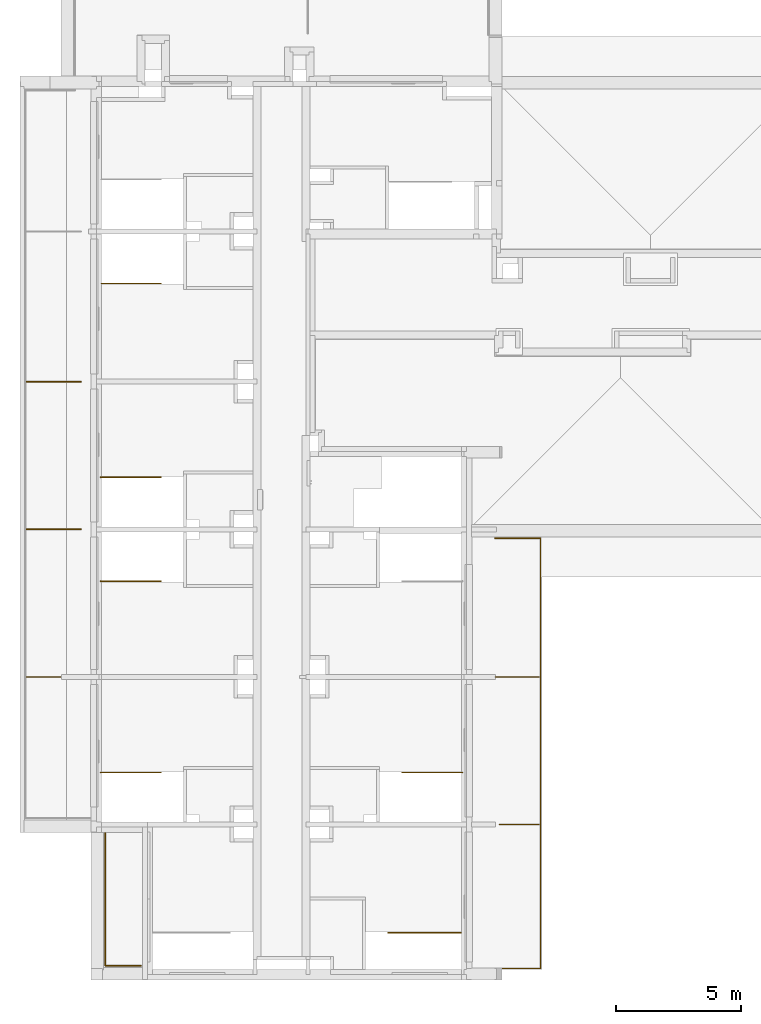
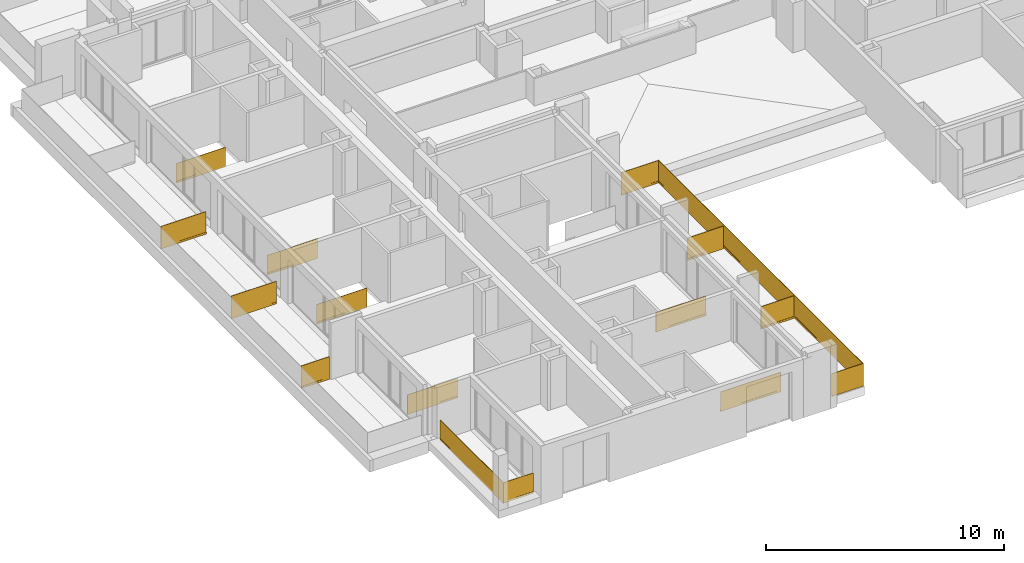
# One storey, part 8 of 30: 13 railings.
"""IFC2X3 building model written with IfcOpenShell, lengths in millimetres."""

from ifc_helpers import new_model, entity, si_unit, converted_unit, derived_unit, money_unit, direction, frame, origin_with_axes, place, context, subcontext, project, spatial, faceted_brep, material, material_list, type_object, element, save


model = new_model("IFC2X3")

# Units and contexts
model_context = context("Model", 3, precision=0.01, world=origin_with_axes(), true_north=direction((0.34421633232, 0.938890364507)))
body_context = subcontext(model_context, "Body", "Model", "MODEL_VIEW")
ifc_project = project(units=[si_unit("LENGTHUNIT", "METRE", prefix="MILLI"), si_unit("AREAUNIT", "SQUARE_METRE"), si_unit("VOLUMEUNIT", "CUBIC_METRE"), converted_unit("PLANEANGLEUNIT", "DEGREE", entity("IfcPlaneAngleMeasure", 0.0174532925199), si_unit("PLANEANGLEUNIT", "RADIAN"), dimensions=[0, 0, 0, 0, 0, 0, 0]), si_unit("SOLIDANGLEUNIT", "STERADIAN"), money_unit("USD"), converted_unit("TIMEUNIT", "Year", entity("IfcTimeMeasure", 31556926.0), si_unit("TIMEUNIT", "SECOND"), dimensions=[0, 0, 1, 0, 0, 0, 0]), si_unit("MASSUNIT", "GRAM", prefix="KILO"), si_unit("THERMODYNAMICTEMPERATUREUNIT", "DEGREE_CELSIUS"), si_unit("LUMINOUSINTENSITYUNIT", "LUMEN"), si_unit("ENERGYUNIT", "JOULE", prefix="MEGA"), derived_unit("THERMALCONDUCTANCEUNIT", [(si_unit("POWERUNIT", "WATT"), 1), (si_unit("LENGTHUNIT", "METRE"), -1), (si_unit("THERMODYNAMICTEMPERATUREUNIT", "KELVIN"), -1)]), derived_unit("SPECIFICHEATCAPACITYUNIT", [(si_unit("ENERGYUNIT", "JOULE"), 1), (si_unit("MASSUNIT", "GRAM", prefix="KILO"), -1), (si_unit("THERMODYNAMICTEMPERATUREUNIT", "KELVIN"), -1)]), derived_unit("MASSDENSITYUNIT", [(si_unit("MASSUNIT", "GRAM", prefix="KILO"), 1), (si_unit("VOLUMEUNIT", "CUBIC_METRE"), -1)])], contexts=[model_context])

# Site, building, storey
site_placement = place(None, origin_with_axes())
site = spatial("IfcSite", under=ifc_project, at=site_placement, Name="USTRONIE MORSKIE", CompositionType="ELEMENT")
building_placement = place(site_placement, origin_with_axes())
building = spatial("IfcBuilding", under=site, at=building_placement, Name="Budynek", CompositionType="ELEMENT")
storey_placement = place(building_placement, frame((0.0, 0.0, 16000.0), z_axis=(0.0, 0.0, 1.0), x_axis=(1.0, 0.0, 0.0)))
storey = spatial("IfcBuildingStorey", under=building, at=storey_placement, Name="ANTRESOLA - KOND. TECHNICZNA", CompositionType="ELEMENT", Elevation=16000.0)

# Railings
ifc_material_1 = material(Name="Szkło struktualne")
ifc_material_2 = material(Name="Profile aluminiowe")
ifc_material_list_1 = material_list([ifc_material_1, ifc_material_2])
railing_type = type_object("IfcRailingType", Name="Typ balustrady", PredefinedType="NOTDEFINED")
railing_1_placement = place(storey_placement, frame((367117.957311, 715101.199036, 200.0), z_axis=(0.0, 0.0, 1.0), x_axis=(-1.0, 0.0, 0.0)))
element("IfcRailing", 1, at=railing_1_placement, inside=storey, type_object=railing_type, material=ifc_material_list_1, Name="BL1", PredefinedType="NOTDEFINED", context=body_context, shape_type="Brep", body=[
    faceted_brep([(-1750.0, -9.99999999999, -100.0), (-150.0, -9.99999999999, -100.0), (-150.0, -9.99999999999, 1050.0), (-1750.0, -9.99999999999, 1050.0), (-150.0, 9.99999999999, -100.0), (-1750.0, 9.99999999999, -100.0), (-150.0, 9.99999999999, 1050.0), (-1750.0, 9.99999999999, 1050.0)], [[[0, 1, 2, 3]], [[4, 1, 0, 5]], [[6, 2, 1, 4]], [[3, 2, 6, 7]], [[0, 3, 7, 5]], [[6, 4, 5, 7]]]),
    faceted_brep([(-1750.0, 15.0, -5.0), (-150.0, 15.0, -5.0), (-150.0, 15.0, -105.0), (-1750.0, 15.0, -105.0), (-1750.0, 9.99999999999, -5.0), (-150.0, 9.99999999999, -5.0), (-150.0, 9.99999999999, -100.0), (-150.0, -9.99999999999, -100.0), (-150.0, -9.99999999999, -5.0), (-150.0, -15.0, -5.0), (-150.0, -15.0, -105.0), (-1750.0, -15.0, -105.0), (-1750.0, -15.0, -5.0), (-1750.0, -9.99999999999, -5.0), (-1750.0, -9.99999999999, -100.0), (-1750.0, 9.99999999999, -100.0)], [[[0, 1, 2, 3]], [[1, 0, 4, 5]], [[6, 7, 8, 9, 10, 2, 1, 5]], [[10, 11, 3, 2]], [[11, 12, 13, 14, 15, 4, 0, 3]], [[15, 6, 5, 4]], [[7, 6, 15, 14]], [[8, 7, 14, 13]], [[9, 8, 13, 12]], [[11, 10, 9, 12]]]),
])
railing_2_placement = place(storey_placement, frame((350567.920919, 732801.199036, 200.0), z_axis=(0.0, 0.0, 1.0), x_axis=(1.0, 0.0, 0.0)))
element("IfcRailing", 2, at=railing_2_placement, inside=storey, type_object=railing_type, material=ifc_material_list_1, Name="BL1", PredefinedType="NOTDEFINED", context=body_context, shape_type="Brep", body=[
    faceted_brep([(-2200.0, -9.99999999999, -100.0), (0.0, -9.99999999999, -100.0), (0.0, -9.99999999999, 1050.0), (-2200.0, -9.99999999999, 1050.0), (0.0, 9.99999999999, -100.0), (-2200.0, 9.99999999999, -100.0), (0.0, 9.99999999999, 1050.0), (-2200.0, 9.99999999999, 1050.0)], [[[0, 1, 2, 3]], [[4, 1, 0, 5]], [[6, 2, 1, 4]], [[3, 2, 6, 7]], [[0, 3, 7, 5]], [[6, 4, 5, 7]]]),
    faceted_brep([(-2200.0, 15.0, -5.0), (0.0, 15.0, -5.0), (0.0, 15.0, -105.0), (-2200.0, 15.0, -105.0), (-2200.0, 9.99999999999, -5.0), (0.0, 9.99999999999, -5.0), (0.0, 9.99999999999, -100.0), (0.0, -9.99999999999, -100.0), (0.0, -9.99999999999, -5.0), (0.0, -15.0, -5.0), (0.0, -15.0, -105.0), (-2200.0, -15.0, -105.0), (-2200.0, -15.0, -5.0), (-2200.0, -9.99999999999, -5.0), (-2200.0, -9.99999999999, -100.0), (-2200.0, 9.99999999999, -100.0)], [[[0, 1, 2, 3]], [[1, 0, 4, 5]], [[6, 7, 8, 9, 10, 2, 1, 5]], [[10, 11, 3, 2]], [[11, 12, 13, 14, 15, 4, 0, 3]], [[15, 6, 5, 4]], [[7, 6, 15, 14]], [[8, 7, 14, 13]], [[9, 8, 13, 12]], [[11, 10, 9, 12]]]),
])
for number, where, z_axis, x_axis, name in (
    (3, (351317.920919, 729001.154796, 100.0), (0.0, 0.0, 1.0), (-1.0, 0.0, 0.0), "BL1"),
    (4, (351317.920919, 717201.199037, 100.0), (0.0, 0.0, 1.0), (-1.0, 0.0, 0.0), "BL1"),
):
    element("IfcRailing", number, at=place(storey_placement, frame(where, z_axis=z_axis, x_axis=x_axis)), inside=storey, type_object=railing_type, material=ifc_material_list_1, Name=name, PredefinedType="NOTDEFINED", context=body_context, shape_type="Brep", body=[
        faceted_brep([(-2440.0, 9.99999999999, -50.0), (0.0, 9.99999999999, -50.0), (0.0, 9.99999999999, 950.0), (-2440.0, 9.99999999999, 950.0), (0.0, 30.0, -50.0), (-2440.0, 30.0, -50.0), (0.0, 30.0, 950.0), (-2440.0, 30.0, 950.0)], [[[0, 1, 2, 3]], [[4, 1, 0, 5]], [[6, 2, 1, 4]], [[3, 2, 6, 7]], [[0, 3, 7, 5]], [[6, 4, 5, 7]]]),
        faceted_brep([(-2440.0, 35.0, 45.0), (0.0, 35.0, 45.0), (0.0, 35.0, -55.0), (-2440.0, 35.0, -55.0), (-2440.0, 30.0, 45.0), (0.0, 30.0, 45.0), (0.0, 30.0, -50.0), (0.0, 9.99999999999, -50.0), (0.0, 9.99999999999, 45.0), (0.0, 5.0, 45.0), (0.0, 5.0, -55.0), (-2440.0, 5.0, -55.0), (-2440.0, 5.0, 45.0), (-2440.0, 9.99999999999, 45.0), (-2440.0, 9.99999999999, -50.0), (-2440.0, 30.0, -50.0)], [[[0, 1, 2, 3]], [[1, 0, 4, 5]], [[6, 7, 8, 9, 10, 2, 1, 5]], [[10, 11, 3, 2]], [[11, 12, 13, 14, 15, 4, 0, 3]], [[15, 6, 5, 4]], [[7, 6, 15, 14]], [[8, 7, 14, 13]], [[9, 8, 13, 12]], [[11, 10, 9, 12]]]),
    ])
railing_3_placement = place(storey_placement, frame((367117.957311, 721001.199036, 200.0), z_axis=(0.0, 0.0, 1.0), x_axis=(-1.0, 0.0, 0.0)))
element("IfcRailing", 5, at=railing_3_placement, inside=storey, type_object=railing_type, material=ifc_material_list_1, Name="BL1", PredefinedType="NOTDEFINED", context=body_context, shape_type="Brep", body=[
    faceted_brep([(-1750.0, -9.99999999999, -100.0), (0.0, -9.99999999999, -100.0), (0.0, -9.99999999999, 1050.0), (-1750.0, -9.99999999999, 1050.0), (0.0, 9.99999999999, -100.0), (-1750.0, 9.99999999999, -100.0), (0.0, 9.99999999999, 1050.0), (-1750.0, 9.99999999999, 1050.0)], [[[0, 1, 2, 3]], [[4, 1, 0, 5]], [[6, 2, 1, 4]], [[3, 2, 6, 7]], [[0, 3, 7, 5]], [[6, 4, 5, 7]]]),
    faceted_brep([(-1750.0, 15.0, -5.0), (0.0, 15.0, -5.0), (0.0, 15.0, -105.0), (-1750.0, 15.0, -105.0), (-1750.0, 9.99999999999, -5.0), (0.0, 9.99999999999, -5.0), (0.0, 9.99999999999, -100.0), (0.0, -9.99999999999, -100.0), (0.0, -9.99999999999, -5.0), (0.0, -15.0, -5.0), (0.0, -15.0, -105.0), (-1750.0, -15.0, -105.0), (-1750.0, -15.0, -5.0), (-1750.0, -9.99999999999, -5.0), (-1750.0, -9.99999999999, -100.0), (-1750.0, 9.99999999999, -100.0)], [[[0, 1, 2, 3]], [[1, 0, 4, 5]], [[6, 7, 8, 9, 10, 2, 1, 5]], [[10, 11, 3, 2]], [[11, 12, 13, 14, 15, 4, 0, 3]], [[15, 6, 5, 4]], [[7, 6, 15, 14]], [[8, 7, 14, 13]], [[9, 8, 13, 12]], [[11, 10, 9, 12]]]),
])
ifc_material_list_2 = material_list([ifc_material_1, ifc_material_2, ifc_material_1, ifc_material_2, ifc_material_1, ifc_material_2])
railing_4_placement = place(storey_placement, frame((360367.920919, 709026.409919, 200.0), z_axis=(0.0, 0.0, 1.0), x_axis=(1.0, 0.0, 0.0)))
element("IfcRailing", 6, at=railing_4_placement, inside=storey, type_object=railing_type, material=ifc_material_list_2, Name="BL1", PredefinedType="NOTDEFINED", context=body_context, shape_type="Brep", body=[
    faceted_brep([(7020.03639142, 334.795315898, -100.00000039), (7020.03639142, 334.795315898, 1049.99999998), (8540.02085166, 334.795315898, 1049.99999998), (8540.02085166, 334.795315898, -100.00000039), (7020.03639142, 314.795316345, 1049.99999998), (7020.03639142, 314.795316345, -100.00000039), (8560.02087209, 314.795316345, 1049.99999998), (8560.02087209, 314.795316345, -100.00000039)], [[[0, 1, 2, 3]], [[4, 1, 0, 5]], [[2, 1, 4, 6]], [[3, 2, 6, 7]], [[5, 0, 3, 7]], [[6, 4, 5, 7]]]),
    faceted_brep([(8550.0208617, 309.795316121, -5.0), (7020.03639181, 309.795316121, -5.0), (7020.03639181, 309.795316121, -105.0), (8550.0208617, 309.795316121, -105.0), (8550.0208617, 314.795316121, -5.0), (7020.03639181, 314.795316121, -5.0), (7020.03639181, 314.795316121, -100.0), (7020.03639181, 334.795316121, -100.0), (7020.03639181, 334.795316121, -5.0), (7020.03639181, 339.795316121, -5.0), (7020.03639181, 339.795316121, -105.0), (8550.0208617, 339.795316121, -105.0), (8550.0208617, 339.795316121, -5.0), (8550.0208617, 334.795316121, -5.0), (8550.0208617, 334.795316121, -100.0), (8550.0208617, 314.795316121, -100.0)], [[[0, 1, 2, 3]], [[1, 0, 4, 5]], [[6, 7, 8, 9, 10, 2, 1, 5]], [[10, 11, 3, 2]], [[11, 12, 13, 14, 15, 4, 0, 3]], [[15, 6, 5, 4]], [[7, 6, 15, 14]], [[8, 7, 14, 13]], [[9, 8, 13, 12]], [[11, 10, 9, 12]]]),
    faceted_brep([(8540.02085148, 334.795315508, -100.00000039), (8540.02085148, 334.795315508, 1049.99999998), (8540.0029234, 17504.7891175, 1049.99999998), (8540.0029234, 17504.7891175, -100.00000039), (8560.02087192, 314.795315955, 1049.99999998), (8560.02087192, 314.795315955, -100.00000039), (8560.00290207, 17524.789117, 1049.99999998), (8560.00290207, 17524.789117, -100.00000039)], [[[0, 1, 2, 3]], [[4, 1, 0, 5]], [[2, 1, 4, 6]], [[3, 2, 6, 7]], [[5, 0, 3, 7]], [[6, 4, 5, 7]]]),
    faceted_brep([(8565.00291274, 17514.7891325, -5.0), (8565.0208617, 324.795331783, -5.0), (8565.0208617, 324.795331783, -105.0), (8565.00291274, 17514.7891325, -105.0), (8560.00291274, 17514.7891273, -5.0), (8560.0208617, 324.795326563, -5.0), (8560.0208617, 324.795326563, -100.0), (8540.0208617, 324.79530568, -100.0), (8540.0208617, 324.79530568, -5.0), (8535.0208617, 324.795300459, -5.0), (8535.0208617, 324.795300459, -105.0), (8535.00291274, 17514.7891012, -105.0), (8535.00291274, 17514.7891012, -5.0), (8540.00291274, 17514.7891064, -5.0), (8540.00291274, 17514.7891064, -100.0), (8560.00291274, 17514.7891273, -100.0)], [[[0, 1, 2, 3]], [[1, 0, 4, 5]], [[6, 7, 8, 9, 10, 2, 1, 5]], [[10, 11, 3, 2]], [[11, 12, 13, 14, 15, 4, 0, 3]], [[15, 6, 5, 4]], [[7, 6, 15, 14]], [[8, 7, 14, 13]], [[9, 8, 13, 12]], [[11, 10, 9, 12]]]),
    faceted_brep([(8540.00292379, 17504.7891171, -100.00000039), (8540.00292379, 17504.7891171, 1049.99999998), (6730.03639202, 17504.7891171, 1049.99999998), (6730.03639202, 17504.7891171, -100.00000039), (8560.00290246, 17524.7891166, 1049.99999998), (8560.00290246, 17524.7891166, -100.00000039), (6730.03639202, 17524.7891166, 1049.99999998), (6730.03639202, 17524.7891166, -100.00000039)], [[[0, 1, 2, 3]], [[4, 1, 0, 5]], [[2, 1, 4, 6]], [[3, 2, 6, 7]], [[5, 0, 3, 7]], [[6, 4, 5, 7]]]),
    faceted_brep([(6730.03639181, 17529.7891169, -5.0), (8550.00291274, 17529.7891169, -5.0), (8550.00291274, 17529.7891169, -105.0), (6730.03639181, 17529.7891169, -105.0), (6730.03639181, 17524.7891169, -5.0), (8550.00291274, 17524.7891169, -5.0), (8550.00291274, 17524.7891169, -100.0), (8550.00291274, 17504.7891169, -100.0), (8550.00291274, 17504.7891169, -5.0), (8550.00291274, 17499.7891169, -5.0), (8550.00291274, 17499.7891169, -105.0), (6730.03639181, 17499.7891169, -105.0), (6730.03639181, 17499.7891169, -5.0), (6730.03639181, 17504.7891169, -5.0), (6730.03639181, 17504.7891169, -100.0), (6730.03639181, 17524.7891169, -100.0)], [[[0, 1, 2, 3]], [[1, 0, 4, 5]], [[6, 7, 8, 9, 10, 2, 1, 5]], [[10, 11, 3, 2]], [[11, 12, 13, 14, 15, 4, 0, 3]], [[15, 6, 5, 4]], [[7, 6, 15, 14]], [[8, 7, 14, 13]], [[9, 8, 13, 12]], [[11, 10, 9, 12]]]),
])
ifc_material_list_3 = material_list([ifc_material_1, ifc_material_2, ifc_material_1, ifc_material_2])
railing_5_placement = place(storey_placement, frame((350967.920919, 714801.199036, 200.0), z_axis=(0.0, 0.0, 1.0), x_axis=(-1.0, 0.0, 0.0)))
element("IfcRailing", 7, at=railing_5_placement, inside=storey, type_object=railing_type, material=ifc_material_list_3, Name="BL1", PredefinedType="NOTDEFINED", context=body_context, shape_type="Brep", body=[
    faceted_brep([(-570.00003457, 29.9999999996, -100.00000039), (-570.00003457, 29.9999999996, 950.000000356), (-570.000000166, 5330.00000068, 950.000000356), (-570.000000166, 5330.00000068, -100.00000039), (-550.000035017, 29.9999998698, 950.000000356), (-550.000035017, 29.9999998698, -100.00000039), (-550.000000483, 5350.00000023, 950.000000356), (-550.000000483, 5350.00000023, -100.00000039)], [[[0, 1, 2, 3]], [[4, 1, 0, 5]], [[2, 1, 4, 6]], [[3, 2, 6, 7]], [[5, 0, 3, 7]], [[6, 4, 5, 7]]]),
    faceted_brep([(-545.000000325, 5339.9999999, -5.0), (-545.000034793, 30.0000002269, -5.0), (-545.000034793, 30.0000002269, -105.0), (-545.000000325, 5339.9999999, -105.0), (-550.000000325, 5339.99999993, -5.0), (-550.000034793, 30.0000002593, -5.0), (-550.000034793, 30.0000002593, -100.0), (-570.000034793, 30.0000003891, -100.0), (-570.000034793, 30.0000003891, -5.0), (-575.000034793, 30.0000004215, -5.0), (-575.000034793, 30.0000004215, -105.0), (-575.000000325, 5340.0000001, -105.0), (-575.000000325, 5340.0000001, -5.0), (-570.000000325, 5340.00000006, -5.0), (-570.000000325, 5340.00000006, -100.0), (-550.000000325, 5339.99999993, -100.0)], [[[0, 1, 2, 3]], [[1, 0, 4, 5]], [[6, 7, 8, 9, 10, 2, 1, 5]], [[10, 11, 3, 2]], [[11, 12, 13, 14, 15, 4, 0, 3]], [[15, 6, 5, 4]], [[7, 6, 15, 14]], [[8, 7, 14, 13]], [[9, 8, 13, 12]], [[11, 10, 9, 12]]]),
    faceted_brep([(-569.999999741, 5330.00000022, -100.00000039), (-569.999999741, 5330.00000022, 950.000000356), (-2000.00000032, 5330.00000022, 950.000000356), (-2000.00000032, 5330.00000022, -100.00000039), (-550.00000007, 5349.99999978, 950.000000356), (-550.00000007, 5349.99999978, -100.00000039), (-2000.00000032, 5349.99999978, 950.000000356), (-2000.00000032, 5349.99999978, -100.00000039)], [[[0, 1, 2, 3]], [[4, 1, 0, 5]], [[2, 1, 4, 6]], [[3, 2, 6, 7]], [[5, 0, 3, 7]], [[6, 4, 5, 7]]]),
    faceted_brep([(-2000.0, 5355.0, -5.0), (-560.000000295, 5355.0, -5.0), (-560.000000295, 5355.0, -105.0), (-2000.0, 5355.0, -105.0), (-2000.0, 5350.0, -5.0), (-560.000000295, 5350.0, -5.0), (-560.000000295, 5350.0, -100.0), (-560.000000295, 5330.0, -100.0), (-560.000000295, 5330.0, -5.0), (-560.000000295, 5325.0, -5.0), (-560.000000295, 5325.0, -105.0), (-2000.0, 5325.0, -105.0), (-2000.0, 5325.0, -5.0), (-2000.0, 5330.0, -5.0), (-2000.0, 5330.0, -100.0), (-2000.0, 5350.0, -100.0)], [[[0, 1, 2, 3]], [[1, 0, 4, 5]], [[6, 7, 8, 9, 10, 2, 1, 5]], [[10, 11, 3, 2]], [[11, 12, 13, 14, 15, 4, 0, 3]], [[15, 6, 5, 4]], [[7, 6, 15, 14]], [[8, 7, 14, 13]], [[9, 8, 13, 12]], [[11, 10, 9, 12]]]),
])
railing_6_placement = place(storey_placement, frame((365747.920919, 710801.199065, 100.0), z_axis=(0.0, 0.0, 1.0), x_axis=(0.0, -1.0, 0.0)))
element("IfcRailing", 8, at=railing_6_placement, inside=storey, type_object=railing_type, material=ifc_material_list_1, Name="BL1", PredefinedType="NOTDEFINED", context=body_context, shape_type="Brep", body=[
    faceted_brep([(30.0, -2930.0, -50.0), (30.0, 0.0, -50.0), (30.0, 0.0, 950.0), (30.0, -2930.0, 950.0), (9.99999999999, 0.0, -50.0), (9.99999999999, -2930.0, -50.0), (9.99999999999, 0.0, 950.0), (9.99999999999, -2930.0, 950.0)], [[[0, 1, 2, 3]], [[4, 1, 0, 5]], [[6, 2, 1, 4]], [[3, 2, 6, 7]], [[0, 3, 7, 5]], [[6, 4, 5, 7]]]),
    faceted_brep([(5.0, -2930.0, 45.0), (5.0, 0.0, 45.0), (5.0, 0.0, -55.0), (5.0, -2930.0, -55.0), (9.99999999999, -2930.0, 45.0), (9.99999999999, 0.0, 45.0), (9.99999999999, 0.0, -50.0), (30.0, 0.0, -50.0), (30.0, 0.0, 45.0), (35.0, 0.0, 45.0), (35.0, 0.0, -55.0), (35.0, -2930.0, -55.0), (35.0, -2930.0, 45.0), (30.0, -2930.0, 45.0), (30.0, -2930.0, -50.0), (9.99999999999, -2930.0, -50.0)], [[[0, 1, 2, 3]], [[1, 0, 4, 5]], [[6, 7, 8, 9, 10, 2, 1, 5]], [[10, 11, 3, 2]], [[11, 12, 13, 14, 15, 4, 0, 3]], [[15, 6, 5, 4]], [[7, 6, 15, 14]], [[8, 7, 14, 13]], [[9, 8, 13, 12]], [[11, 10, 9, 12]]]),
])
railing_7_placement = place(storey_placement, frame((351317.920919, 724801.243277, 100.0), z_axis=(0.0, 0.0, 1.0), x_axis=(-1.0, 0.0, 0.0)))
element("IfcRailing", 9, at=railing_7_placement, inside=storey, type_object=railing_type, material=ifc_material_list_1, Name="BL1", PredefinedType="NOTDEFINED", context=body_context, shape_type="Brep", body=[
    faceted_brep([(-2440.0, -30.0, -50.0), (0.0, -30.0, -50.0), (0.0, -30.0, 950.0), (-2440.0, -30.0, 950.0), (0.0, -9.99999999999, -50.0), (-2440.0, -9.99999999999, -50.0), (0.0, -9.99999999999, 950.0), (-2440.0, -9.99999999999, 950.0)], [[[0, 1, 2, 3]], [[4, 1, 0, 5]], [[6, 2, 1, 4]], [[3, 2, 6, 7]], [[0, 3, 7, 5]], [[6, 4, 5, 7]]]),
    faceted_brep([(-2440.0, -5.0, 45.0), (0.0, -5.0, 45.0), (0.0, -5.0, -55.0), (-2440.0, -5.0, -55.0), (-2440.0, -9.99999999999, 45.0), (0.0, -9.99999999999, 45.0), (0.0, -9.99999999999, -50.0), (0.0, -30.0, -50.0), (0.0, -30.0, 45.0), (0.0, -35.0, 45.0), (0.0, -35.0, -55.0), (-2440.0, -35.0, -55.0), (-2440.0, -35.0, 45.0), (-2440.0, -30.0, 45.0), (-2440.0, -30.0, -50.0), (-2440.0, -9.99999999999, -50.0)], [[[0, 1, 2, 3]], [[1, 0, 4, 5]], [[6, 7, 8, 9, 10, 2, 1, 5]], [[10, 11, 3, 2]], [[11, 12, 13, 14, 15, 4, 0, 3]], [[15, 6, 5, 4]], [[7, 6, 15, 14]], [[8, 7, 14, 13]], [[9, 8, 13, 12]], [[11, 10, 9, 12]]]),
])
railing_8_placement = place(storey_placement, frame((350567.920919, 726901.199036, 200.0), z_axis=(0.0, 0.0, 1.0), x_axis=(1.0, 0.0, 0.0)))
element("IfcRailing", 10, at=railing_8_placement, inside=storey, type_object=railing_type, material=ifc_material_list_1, Name="BL1", PredefinedType="NOTDEFINED", context=body_context, shape_type="Brep", body=[
    faceted_brep([(-2200.0, -9.99999999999, -100.0), (0.0, -9.99999999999, -100.0), (0.0, -9.99999999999, 1050.0), (-2200.0, -9.99999999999, 1050.0), (0.0, 9.99999999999, -100.0), (-2200.0, 9.99999999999, -100.0), (0.0, 9.99999999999, 1050.0), (-2200.0, 9.99999999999, 1050.0)], [[[0, 1, 2, 3]], [[4, 1, 0, 5]], [[6, 2, 1, 4]], [[3, 2, 6, 7]], [[0, 3, 7, 5]], [[6, 4, 5, 7]]]),
    faceted_brep([(-2200.0, 15.0, -5.0), (0.0, 15.0, -5.0), (0.0, 15.0, -105.0), (-2200.0, 15.0, -105.0), (-2200.0, 9.99999999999, -5.0), (0.0, 9.99999999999, -5.0), (0.0, 9.99999999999, -100.0), (0.0, -9.99999999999, -100.0), (0.0, -9.99999999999, -5.0), (0.0, -15.0, -5.0), (0.0, -15.0, -105.0), (-2200.0, -15.0, -105.0), (-2200.0, -15.0, -5.0), (-2200.0, -9.99999999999, -5.0), (-2200.0, -9.99999999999, -100.0), (-2200.0, 9.99999999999, -100.0)], [[[0, 1, 2, 3]], [[1, 0, 4, 5]], [[6, 7, 8, 9, 10, 2, 1, 5]], [[10, 11, 3, 2]], [[11, 12, 13, 14, 15, 4, 0, 3]], [[15, 6, 5, 4]], [[7, 6, 15, 14]], [[8, 7, 14, 13]], [[9, 8, 13, 12]], [[11, 10, 9, 12]]]),
])
railing_9_placement = place(storey_placement, frame((353757.920919, 736701.205626, 100.0), z_axis=(0.0, 0.0, 1.0), x_axis=(1.0, 0.0, 0.0)))
element("IfcRailing", 11, at=railing_9_placement, inside=storey, type_object=railing_type, material=ifc_material_list_1, Name="BL1", PredefinedType="NOTDEFINED", context=body_context, shape_type="Brep", body=[
    faceted_brep([(-2390.0, 9.99999999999, -50.0), (0.0, 9.99999999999, -50.0), (0.0, 9.99999999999, 950.0), (-2390.0, 9.99999999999, 950.0), (0.0, 30.0, -50.0), (-2390.0, 30.0, -50.0), (0.0, 30.0, 950.0), (-2390.0, 30.0, 950.0)], [[[0, 1, 2, 3]], [[4, 1, 0, 5]], [[6, 2, 1, 4]], [[3, 2, 6, 7]], [[0, 3, 7, 5]], [[6, 4, 5, 7]]]),
    faceted_brep([(-2390.0, 35.0, 45.0), (0.0, 35.0, 45.0), (0.0, 35.0, -55.0), (-2390.0, 35.0, -55.0), (-2390.0, 30.0, 45.0), (0.0, 30.0, 45.0), (0.0, 30.0, -50.0), (0.0, 9.99999999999, -50.0), (0.0, 9.99999999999, 45.0), (0.0, 5.0, 45.0), (0.0, 5.0, -55.0), (-2390.0, 5.0, -55.0), (-2390.0, 5.0, 45.0), (-2390.0, 9.99999999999, 45.0), (-2390.0, 9.99999999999, -50.0), (-2390.0, 30.0, -50.0)], [[[0, 1, 2, 3]], [[1, 0, 4, 5]], [[6, 7, 8, 9, 10, 2, 1, 5]], [[10, 11, 3, 2]], [[11, 12, 13, 14, 15, 4, 0, 3]], [[15, 6, 5, 4]], [[7, 6, 15, 14]], [[8, 7, 14, 13]], [[9, 8, 13, 12]], [[11, 10, 9, 12]]]),
])
railing_10_placement = place(storey_placement, frame((365817.920919, 717201.199037, 100.0), z_axis=(0.0, 0.0, 1.0), x_axis=(1.0, 0.0, 0.0)))
element("IfcRailing", 12, at=railing_10_placement, inside=storey, type_object=railing_type, material=ifc_material_list_1, Name="BL1", PredefinedType="NOTDEFINED", context=body_context, shape_type="Brep", body=[
    faceted_brep([(-2440.0, -30.0, -50.0), (0.0, -30.0, -50.0), (0.0, -30.0, 950.0), (-2440.0, -30.0, 950.0), (0.0, -9.99999999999, -50.0), (-2440.0, -9.99999999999, -50.0), (0.0, -9.99999999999, 950.0), (-2440.0, -9.99999999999, 950.0)], [[[0, 1, 2, 3]], [[4, 1, 0, 5]], [[6, 2, 1, 4]], [[3, 2, 6, 7]], [[0, 3, 7, 5]], [[6, 4, 5, 7]]]),
    faceted_brep([(-2440.0, -5.0, 45.0), (0.0, -5.0, 45.0), (0.0, -5.0, -55.0), (-2440.0, -5.0, -55.0), (-2440.0, -9.99999999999, 45.0), (0.0, -9.99999999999, 45.0), (0.0, -9.99999999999, -50.0), (0.0, -30.0, -50.0), (0.0, -30.0, 45.0), (0.0, -35.0, 45.0), (0.0, -35.0, -55.0), (-2440.0, -35.0, -55.0), (-2440.0, -35.0, 45.0), (-2440.0, -30.0, 45.0), (-2440.0, -30.0, -50.0), (-2440.0, -9.99999999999, -50.0)], [[[0, 1, 2, 3]], [[1, 0, 4, 5]], [[6, 7, 8, 9, 10, 2, 1, 5]], [[10, 11, 3, 2]], [[11, 12, 13, 14, 15, 4, 0, 3]], [[15, 6, 5, 4]], [[7, 6, 15, 14]], [[8, 7, 14, 13]], [[9, 8, 13, 12]], [[11, 10, 9, 12]]]),
])
railing_11_placement = place(storey_placement, frame((350567.920919, 721001.199036, 200.0), z_axis=(0.0, 0.0, 1.0), x_axis=(1.0, 0.0, 0.0)))
element("IfcRailing", 13, at=railing_11_placement, inside=storey, type_object=railing_type, material=ifc_material_list_1, Name="BL1", PredefinedType="NOTDEFINED", context=body_context, shape_type="Brep", body=[
    faceted_brep([(-2200.0, -9.99999999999, -100.0), (-820.0, -9.99999999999, -100.0), (-820.0, -9.99999999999, 1050.0), (-2200.0, -9.99999999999, 1050.0), (-820.0, 9.99999999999, -100.0), (-2200.0, 9.99999999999, -100.0), (-820.0, 9.99999999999, 1050.0), (-2200.0, 9.99999999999, 1050.0)], [[[0, 1, 2, 3]], [[4, 1, 0, 5]], [[6, 2, 1, 4]], [[3, 2, 6, 7]], [[0, 3, 7, 5]], [[6, 4, 5, 7]]]),
    faceted_brep([(-2200.0, 15.0, -5.0), (-820.0, 15.0, -5.0), (-820.0, 15.0, -105.0), (-2200.0, 15.0, -105.0), (-2200.0, 9.99999999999, -5.0), (-820.0, 9.99999999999, -5.0), (-820.0, 9.99999999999, -100.0), (-820.0, -9.99999999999, -100.0), (-820.0, -9.99999999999, -5.0), (-820.0, -15.0, -5.0), (-820.0, -15.0, -105.0), (-2200.0, -15.0, -105.0), (-2200.0, -15.0, -5.0), (-2200.0, -9.99999999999, -5.0), (-2200.0, -9.99999999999, -100.0), (-2200.0, 9.99999999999, -100.0)], [[[0, 1, 2, 3]], [[1, 0, 4, 5]], [[6, 7, 8, 9, 10, 2, 1, 5]], [[10, 11, 3, 2]], [[11, 12, 13, 14, 15, 4, 0, 3]], [[15, 6, 5, 4]], [[7, 6, 15, 14]], [[8, 7, 14, 13]], [[9, 8, 13, 12]], [[11, 10, 9, 12]]]),
])

save(model, "model.ifc")
